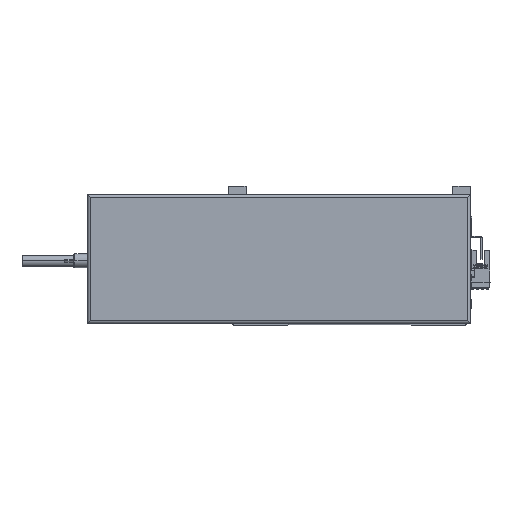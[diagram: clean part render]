
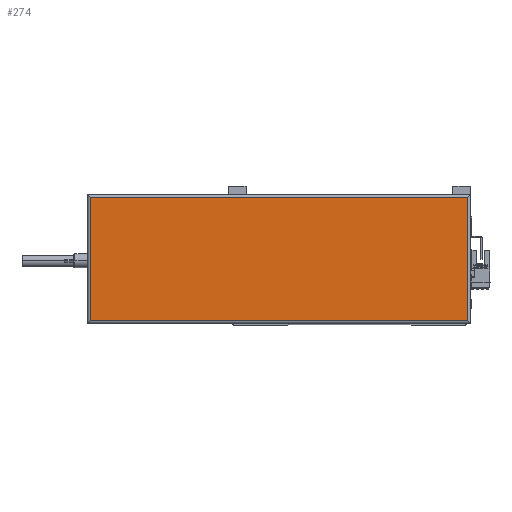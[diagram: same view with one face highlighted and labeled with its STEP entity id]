
A CAD part, top view. The second image highlights one B-rep face of the part: STEP entity #274.
In plain terms, the highlighted planar face has unit normal (0, 0, 1).
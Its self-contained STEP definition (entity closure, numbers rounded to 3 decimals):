
#274 = ADVANCED_FACE ( 'NONE', ( #11638 ), #16879, .T. ) ;
#711 = CARTESIAN_POINT ( 'NONE',  ( 265., 90., 44.8 ) ) ;
#2117 = ORIENTED_EDGE ( 'NONE', *, *, #10034, .T. ) ;
#2902 = CARTESIAN_POINT ( 'NONE',  ( 2., 2., 44.8 ) ) ;
#4293 = VERTEX_POINT ( 'NONE', #41501 ) ;
#5026 = DIRECTION ( 'NONE',  ( -1., 0., 0. ) ) ;
#6692 = AXIS2_PLACEMENT_3D ( 'NONE', #20321, #16558, #8822 ) ;
#8822 = DIRECTION ( 'NONE',  ( 1., 0., 0. ) ) ;
#10034 = EDGE_CURVE ( 'NONE', #23205, #34667, #25768, .T. ) ;
#11638 = FACE_OUTER_BOUND ( 'NONE', #37343, .T. ) ;
#14587 = ORIENTED_EDGE ( 'NONE', *, *, #18924, .T. ) ;
#15833 = CARTESIAN_POINT ( 'NONE',  ( 265., 88., 44.8 ) ) ;
#16161 = CARTESIAN_POINT ( 'NONE',  ( 267., 2., 44.8 ) ) ;
#16558 = DIRECTION ( 'NONE',  ( 0., 0., 1. ) ) ;
#16879 = PLANE ( 'NONE',  #6692 ) ;
#18795 = ORIENTED_EDGE ( 'NONE', *, *, #46994, .T. ) ;
#18924 = EDGE_CURVE ( 'NONE', #34051, #23205, #20440, .T. ) ;
#20321 = CARTESIAN_POINT ( 'NONE',  ( 133.5, 45., 44.8 ) ) ;
#20440 = LINE ( 'NONE', #16161, #46381 ) ;
#21615 = CARTESIAN_POINT ( 'NONE',  ( 2., 0., 44.8 ) ) ;
#23205 = VERTEX_POINT ( 'NONE', #38224 ) ;
#23576 = DIRECTION ( 'NONE',  ( 1., 0., 0. ) ) ;
#23951 = LINE ( 'NONE', #38439, #26896 ) ;
#25768 = LINE ( 'NONE', #711, #48789 ) ;
#26896 = VECTOR ( 'NONE', #5026, 1000. ) ;
#34051 = VERTEX_POINT ( 'NONE', #2902 ) ;
#34667 = VERTEX_POINT ( 'NONE', #15833 ) ;
#36309 = ORIENTED_EDGE ( 'NONE', *, *, #45911, .T. ) ;
#37343 = EDGE_LOOP ( 'NONE', ( #2117, #36309, #18795, #14587 ) ) ;
#38224 = CARTESIAN_POINT ( 'NONE',  ( 265., 2., 44.8 ) ) ;
#38439 = CARTESIAN_POINT ( 'NONE',  ( 0., 88., 44.8 ) ) ;
#39253 = VECTOR ( 'NONE', #43712, 1000. ) ;
#41501 = CARTESIAN_POINT ( 'NONE',  ( 2., 88., 44.8 ) ) ;
#42211 = DIRECTION ( 'NONE',  ( 0., 1., 0. ) ) ;
#43712 = DIRECTION ( 'NONE',  ( 0., -1., 0. ) ) ;
#43975 = LINE ( 'NONE', #21615, #39253 ) ;
#45911 = EDGE_CURVE ( 'NONE', #34667, #4293, #23951, .T. ) ;
#46381 = VECTOR ( 'NONE', #23576, 1000. ) ;
#46994 = EDGE_CURVE ( 'NONE', #4293, #34051, #43975, .T. ) ;
#48789 = VECTOR ( 'NONE', #42211, 1000. ) ;
